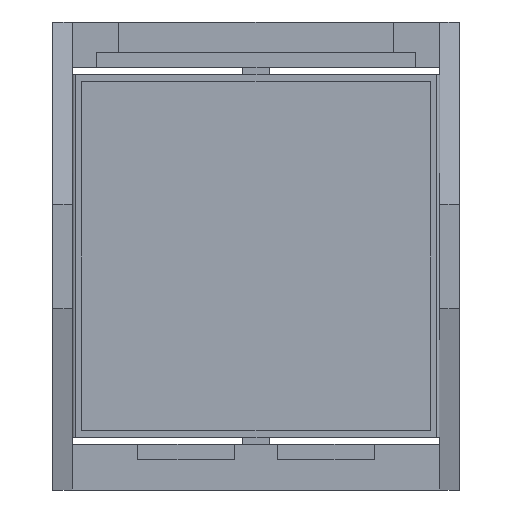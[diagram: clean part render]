
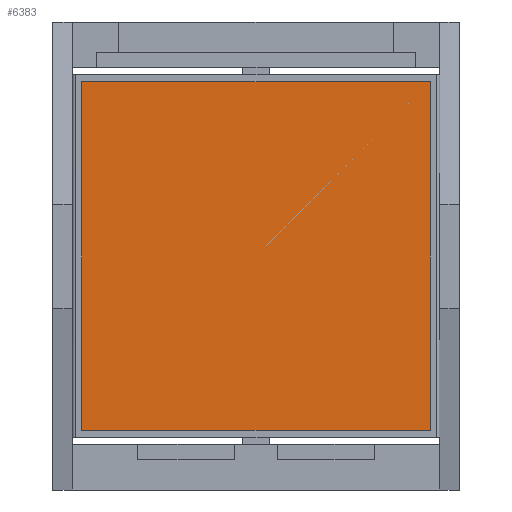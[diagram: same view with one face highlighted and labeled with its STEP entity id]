
A CAD part, front view. The second image highlights one B-rep face of the part: STEP entity #6383.
In plain terms, the highlighted planar face has unit normal (0, -1, 0).
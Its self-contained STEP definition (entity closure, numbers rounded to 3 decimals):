
#18 = LINE ( 'NONE', #7536, #2860 ) ;
#96 = VECTOR ( 'NONE', #1319, 1000. ) ;
#270 = VERTEX_POINT ( 'NONE', #4231 ) ;
#486 = DIRECTION ( 'NONE',  ( -1., 0., 0. ) ) ;
#592 = DIRECTION ( 'NONE',  ( 1., 0., 0. ) ) ;
#634 = CARTESIAN_POINT ( 'NONE',  ( 12.7, -0.127, -12.7 ) ) ;
#740 = DIRECTION ( 'NONE',  ( 0., 0., 1. ) ) ;
#1126 = AXIS2_PLACEMENT_3D ( 'NONE', #6977, #7663, #1356 ) ;
#1128 = CARTESIAN_POINT ( 'NONE',  ( 12.7, -0.127, 12.7 ) ) ;
#1319 = DIRECTION ( 'NONE',  ( 0., 0., -1. ) ) ;
#1356 = DIRECTION ( 'NONE',  ( 0., 0., 1. ) ) ;
#1410 = EDGE_LOOP ( 'NONE', ( #6398, #7986, #2264, #4038 ) ) ;
#1806 = EDGE_CURVE ( 'NONE', #4794, #270, #18, .T. ) ;
#1951 = CARTESIAN_POINT ( 'NONE',  ( -12.7, -0.127, -12.7 ) ) ;
#2055 = FACE_OUTER_BOUND ( 'NONE', #1410, .T. ) ;
#2264 = ORIENTED_EDGE ( 'NONE', *, *, #6318, .F. ) ;
#2384 = CARTESIAN_POINT ( 'NONE',  ( 12.7, -0.127, -12.7 ) ) ;
#2860 = VECTOR ( 'NONE', #740, 1000. ) ;
#3004 = VECTOR ( 'NONE', #486, 1000. ) ;
#3420 = LINE ( 'NONE', #8024, #3004 ) ;
#3558 = CARTESIAN_POINT ( 'NONE',  ( -12.7, -0.127, 12.7 ) ) ;
#3831 = VERTEX_POINT ( 'NONE', #1128 ) ;
#3915 = VERTEX_POINT ( 'NONE', #634 ) ;
#4038 = ORIENTED_EDGE ( 'NONE', *, *, #4322, .F. ) ;
#4231 = CARTESIAN_POINT ( 'NONE',  ( -12.7, -0.127, 12.7 ) ) ;
#4322 = EDGE_CURVE ( 'NONE', #270, #3831, #5411, .T. ) ;
#4456 = LINE ( 'NONE', #2384, #96 ) ;
#4794 = VERTEX_POINT ( 'NONE', #1951 ) ;
#5192 = PLANE ( 'NONE',  #1126 ) ;
#5411 = LINE ( 'NONE', #3558, #5421 ) ;
#5421 = VECTOR ( 'NONE', #592, 1000. ) ;
#6318 = EDGE_CURVE ( 'NONE', #3831, #3915, #4456, .T. ) ;
#6383 = ADVANCED_FACE ( 'NONE', ( #2055 ), #5192, .F. ) ;
#6398 = ORIENTED_EDGE ( 'NONE', *, *, #1806, .F. ) ;
#6977 = CARTESIAN_POINT ( 'NONE',  ( -12.7, -0.127, 12.7 ) ) ;
#7536 = CARTESIAN_POINT ( 'NONE',  ( -12.7, -0.127, -12.7 ) ) ;
#7663 = DIRECTION ( 'NONE',  ( 0., 1., 0. ) ) ;
#7739 = EDGE_CURVE ( 'NONE', #3915, #4794, #3420, .T. ) ;
#7986 = ORIENTED_EDGE ( 'NONE', *, *, #7739, .F. ) ;
#8024 = CARTESIAN_POINT ( 'NONE',  ( -12.7, -0.127, -12.7 ) ) ;
